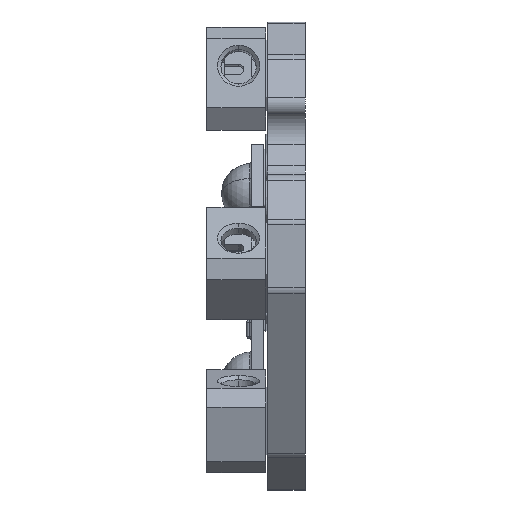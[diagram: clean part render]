
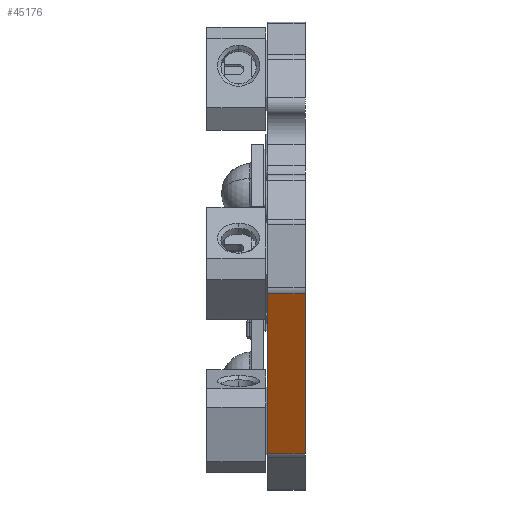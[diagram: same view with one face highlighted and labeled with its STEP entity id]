
A CAD part, left-side view. The second image highlights one B-rep face of the part: STEP entity #45176.
In plain terms, the highlighted planar face has unit normal (-0.866, 0, -0.5).
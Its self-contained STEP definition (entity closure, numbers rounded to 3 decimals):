
#604 = DIRECTION ( 'NONE',  ( 0.5, 0., -0.866 ) ) ;
#1156 = LINE ( 'NONE', #21724, #17332 ) ;
#2885 = VERTEX_POINT ( 'NONE', #52097 ) ;
#3703 = DIRECTION ( 'NONE',  ( 0., -1., 0. ) ) ;
#5417 = PLANE ( 'NONE',  #7059 ) ;
#5441 = ORIENTED_EDGE ( 'NONE', *, *, #14135, .T. ) ;
#7059 = AXIS2_PLACEMENT_3D ( 'NONE', #67192, #42144, #604 ) ;
#10011 = CARTESIAN_POINT ( 'NONE',  ( 51.927, 1.6, -33.195 ) ) ;
#13573 = EDGE_CURVE ( 'NONE', #19435, #2885, #65453, .T. ) ;
#14135 = EDGE_CURVE ( 'NONE', #17456, #2885, #1156, .T. ) ;
#17332 = VECTOR ( 'NONE', #23075, 1000. ) ;
#17456 = VERTEX_POINT ( 'NONE', #23258 ) ;
#19435 = VERTEX_POINT ( 'NONE', #34706 ) ;
#21724 = CARTESIAN_POINT ( 'NONE',  ( 51.927, 0., -33.195 ) ) ;
#23075 = DIRECTION ( 'NONE',  ( -0.5, 0., 0.866 ) ) ;
#23258 = CARTESIAN_POINT ( 'NONE',  ( 51.927, 0., -33.195 ) ) ;
#25430 = ORIENTED_EDGE ( 'NONE', *, *, #13573, .F. ) ;
#28639 = EDGE_CURVE ( 'NONE', #50270, #17456, #47181, .T. ) ;
#30939 = DIRECTION ( 'NONE',  ( -0.5, 0., 0.866 ) ) ;
#31243 = VECTOR ( 'NONE', #30939, 1000. ) ;
#34706 = CARTESIAN_POINT ( 'NONE',  ( 48.007, 1.6, -26.405 ) ) ;
#36642 = FACE_OUTER_BOUND ( 'NONE', #58258, .T. ) ;
#37651 = ORIENTED_EDGE ( 'NONE', *, *, #28639, .T. ) ;
#40416 = CARTESIAN_POINT ( 'NONE',  ( 48.007, 1.6, -26.405 ) ) ;
#41375 = DIRECTION ( 'NONE',  ( 0., -1., 0. ) ) ;
#42144 = DIRECTION ( 'NONE',  ( 0.866, 0., 0.5 ) ) ;
#42234 = LINE ( 'NONE', #10011, #31243 ) ;
#43009 = CARTESIAN_POINT ( 'NONE',  ( 51.927, 1.6, -33.195 ) ) ;
#45176 = ADVANCED_FACE ( 'NONE', ( #36642 ), #5417, .F. ) ;
#45876 = EDGE_CURVE ( 'NONE', #50270, #19435, #42234, .T. ) ;
#47181 = LINE ( 'NONE', #67103, #47544 ) ;
#47544 = VECTOR ( 'NONE', #41375, 1000. ) ;
#49055 = VECTOR ( 'NONE', #3703, 1000. ) ;
#50270 = VERTEX_POINT ( 'NONE', #43009 ) ;
#52097 = CARTESIAN_POINT ( 'NONE',  ( 48.007, 0., -26.405 ) ) ;
#58258 = EDGE_LOOP ( 'NONE', ( #5441, #25430, #65819, #37651 ) ) ;
#65453 = LINE ( 'NONE', #40416, #49055 ) ;
#65819 = ORIENTED_EDGE ( 'NONE', *, *, #45876, .F. ) ;
#67103 = CARTESIAN_POINT ( 'NONE',  ( 51.927, 1.6, -33.195 ) ) ;
#67192 = CARTESIAN_POINT ( 'NONE',  ( 51.927, 1.6, -33.195 ) ) ;
